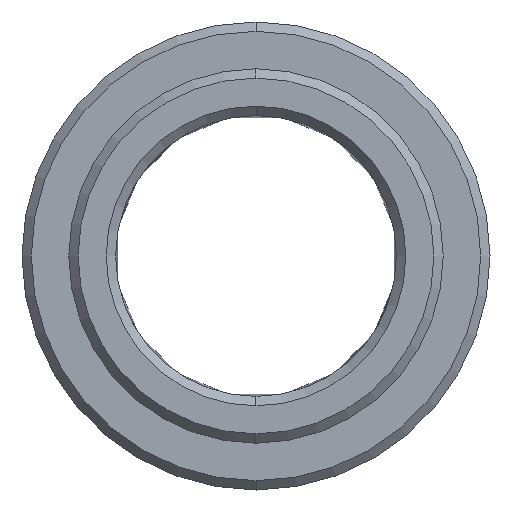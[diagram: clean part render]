
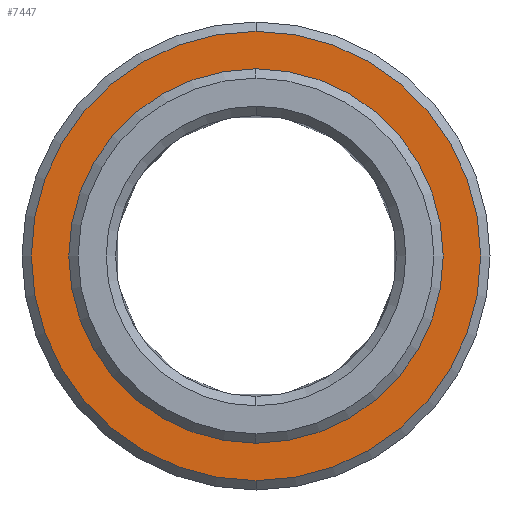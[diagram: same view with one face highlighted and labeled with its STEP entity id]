
A CAD part, left-side view. The second image highlights one B-rep face of the part: STEP entity #7447.
In plain terms, the highlighted planar face has unit normal (-1, 0, 0).
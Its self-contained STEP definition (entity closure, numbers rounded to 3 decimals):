
#4652=CARTESIAN_POINT('',(0.,0.,0.));
#4653=DIRECTION('',(1.,0.,0.));
#4654=DIRECTION('',(0.,0.,1.));
#4655=AXIS2_PLACEMENT_3D('',#4652,#4653,#4654);
#4657=CARTESIAN_POINT('',(0.,0.,0.));
#4658=DIRECTION('',(-1.,0.,0.));
#4659=DIRECTION('',(0.,0.,1.));
#4660=AXIS2_PLACEMENT_3D('',#4657,#4658,#4659);
#4662=CARTESIAN_POINT('',(0.,0.,0.));
#4663=DIRECTION('',(1.,0.,0.));
#4664=DIRECTION('',(0.,0.,-1.));
#4665=AXIS2_PLACEMENT_3D('',#4662,#4663,#4664);
#4667=CARTESIAN_POINT('',(0.,0.,0.));
#4668=DIRECTION('',(1.,0.,0.));
#4669=DIRECTION('',(0.,0.,1.));
#4670=AXIS2_PLACEMENT_3D('',#4667,#4668,#4669);
#4922=CARTESIAN_POINT('',(0.,0.,-12.));
#4923=CARTESIAN_POINT('',(0.,0.,12.));
#4924=VERTEX_POINT('',#4922);
#4925=VERTEX_POINT('',#4923);
#5066=CARTESIAN_POINT('',(0.,0.,10.));
#5067=CARTESIAN_POINT('',(0.,0.,-10.));
#5068=VERTEX_POINT('',#5066);
#5069=VERTEX_POINT('',#5067);
#7432=CARTESIAN_POINT('',(0.,0.,0.));
#7433=DIRECTION('',(1.,0.,0.));
#7434=DIRECTION('',(0.,0.,1.));
#7435=AXIS2_PLACEMENT_3D('',#7432,#7433,#7434);
#7436=PLANE('',#7435);
#7437=ORIENTED_EDGE('',*,*,#7412,.T.);
#7438=ORIENTED_EDGE('',*,*,#7426,.T.);
#7439=EDGE_LOOP('',(#7437,#7438));
#7440=FACE_OUTER_BOUND('',#7439,.F.);
#7442=ORIENTED_EDGE('',*,*,#7441,.F.);
#7444=ORIENTED_EDGE('',*,*,#7443,.T.);
#7445=EDGE_LOOP('',(#7442,#7444));
#7446=FACE_BOUND('',#7445,.F.);
#7447=ADVANCED_FACE('',(#7440,#7446),#7436,.F.);
#4656=CIRCLE('',#4655,10.);
#4661=CIRCLE('',#4660,10.);
#4666=CIRCLE('',#4665,12.);
#4671=CIRCLE('',#4670,12.);
#7412=EDGE_CURVE('',#4924,#4925,#4666,.T.);
#7426=EDGE_CURVE('',#4925,#4924,#4671,.T.);
#7441=EDGE_CURVE('',#5068,#5069,#4656,.T.);
#7443=EDGE_CURVE('',#5068,#5069,#4661,.T.);
